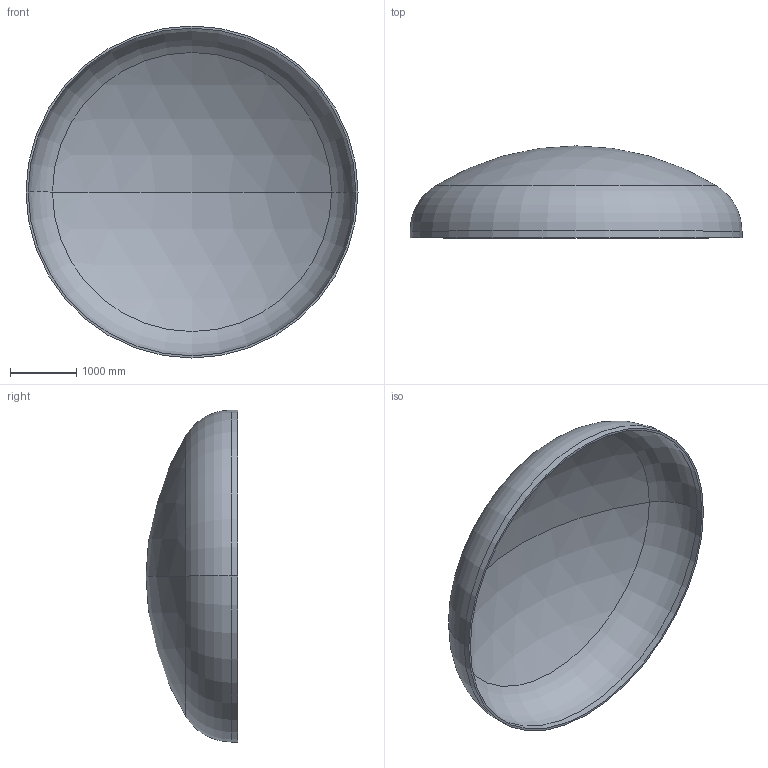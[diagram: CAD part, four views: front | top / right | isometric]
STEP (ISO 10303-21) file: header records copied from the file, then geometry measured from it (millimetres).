
FILE_DESCRIPTION (( 'STEP AP203' ), '1' );
FILE_NAME ('DIN 28013 Korbbogenform_-_Boden DIN 28013 - 5000 x 100 - I - s=33.step', '2016-07-02T00:21:57', ( '' ), ( '' ), 'SwSTEP 2.0', 'SolidWorks 2013', '' );
FILE_SCHEMA (( 'CONFIG_CONTROL_DESIGN' ));
Length unit declared in the file: millimetre
Products named in the file (1): DIN 28013 Korbbogenform_-_Boden DIN 28013 - 5000 x 100 - I - s=33
Bounding box: 5000 x 1384.71 x 5000 mm (x, y, z)
Volume: 941117960.5 mm3; surface area: 57554652.5 mm2
Topology: 1 solids, 1 shells, 13 faces, 24 edges, 14 vertices
Faces by surface type: torus 4, cylinder 4, sphere 4, plane 1
Entity records: 407 total; most frequent: DIRECTION 72, CARTESIAN_POINT 52, ORIENTED_EDGE 48, AXIS2_PLACEMENT_3D 34, EDGE_CURVE 24, CIRCLE 20, VERTEX_POINT 14, EDGE_LOOP 14
